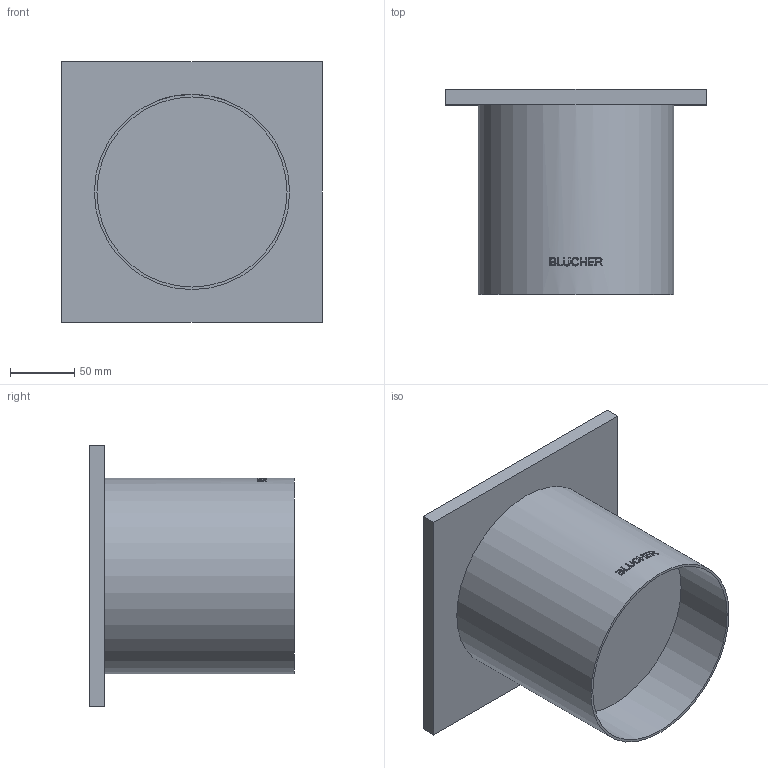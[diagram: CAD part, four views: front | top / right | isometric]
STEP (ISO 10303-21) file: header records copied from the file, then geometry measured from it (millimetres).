
FILE_DESCRIPTION((''),'2;1');
FILE_NAME('C:\Drawings\3D_CAD_Models\Blucher\BCO_Clean Outs_Complete_091119\BCO-100\WebsiteFiles\3D\STEP\BCO-136.stp','2009-11-23T14:14:24',('hofmansp'),(''),'Autodesk Inventor 2010','Autodesk Inventor 2010','');
FILE_SCHEMA(('AUTOMOTIVE_DESIGN { 1 0 10303 214 1 1 1 1 }'));
Length unit declared in the file: inch
Products named in the file (1): BCO-136
Bounding box: 203.2 x 160.02 x 203.2 mm (x, y, z)
Volume: 2316229.9 mm3; surface area: 186914.2 mm2
Topology: 1 solids, 1 shells, 108 faces, 282 edges, 188 vertices
Faces by surface type: plane 62, bspline 34, cylinder 12
Full cylindrical faces by diameter (mm): 148.336 x1, 152.4 x1
Entity records: 13841 total; most frequent: CARTESIAN_POINT 11443, ORIENTED_EDGE 560, DIRECTION 356, EDGE_CURVE 280, VERTEX_POINT 188, VECTOR 128, LINE 128, EDGE_LOOP 122
